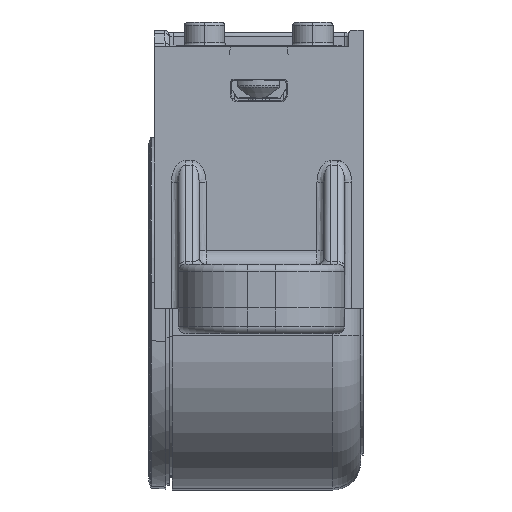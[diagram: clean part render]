
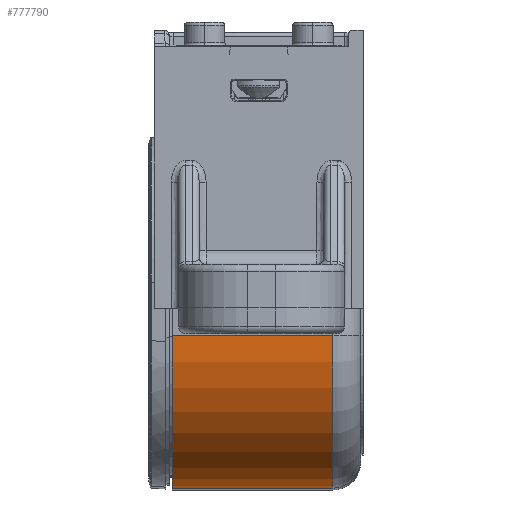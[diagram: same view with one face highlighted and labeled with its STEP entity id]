
A CAD part, top view. The second image highlights one B-rep face of the part: STEP entity #777790.
In plain terms, the highlighted cylindrical face has radius 11 mm (diameter 22 mm), a partial arc.
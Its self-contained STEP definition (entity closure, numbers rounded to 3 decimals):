
#724920=CARTESIAN_POINT('',(-124.1,-12.,132.18));
#724930=VERTEX_POINT('',#724920);
#725260=CARTESIAN_POINT('',(-135.1,-1.,
132.18));
#725270=VERTEX_POINT('',#725260);
#725380=CARTESIAN_POINT('',(-124.1,-1.,
132.18));
#725390=DIRECTION('',(0.,0.,1.));
#725400=DIRECTION('',(1.,0.,0.));
#725410=AXIS2_PLACEMENT_3D('',#725380,#725390,#725400);
#725420=CIRCLE('',#725410,11.);
#725430=EDGE_CURVE('',#725270,#724930,#725420,.T.);
#726240=CARTESIAN_POINT('',(-124.1,-12.,120.58));
#726250=VERTEX_POINT('',#726240);
#726280=CARTESIAN_POINT('',(-124.1,-12.,0.));
#726290=DIRECTION('',(0.,0.,1.));
#726300=VECTOR('',#726290,1.);
#726310=LINE('',#726280,#726300);
#726320=EDGE_CURVE('',#726250,#724930,#726310,.T.);
#777550=CARTESIAN_POINT('',(-124.1,-1.,0.));
#777560=DIRECTION('',(0.,0.,1.));
#777570=DIRECTION('',(1.,0.,0.));
#777580=AXIS2_PLACEMENT_3D('',#777550,#777560,#777570);
#777590=CYLINDRICAL_SURFACE('',#777580,11.);
#777600=ORIENTED_EDGE('',*,*,#726320,.T.);
#777610=CARTESIAN_POINT('',(-124.1,-1.,
120.58));
#777620=DIRECTION('',(0.,0.,1.));
#777630=DIRECTION('',(1.,0.,0.));
#777640=AXIS2_PLACEMENT_3D('',#777610,#777620,#777630);
#777650=CIRCLE('',#777640,11.);
#777660=CARTESIAN_POINT('',(-135.1,-1.,
120.58));
#777670=VERTEX_POINT('',#777660);
#777680=EDGE_CURVE('',#777670,#726250,#777650,.T.);
#777690=ORIENTED_EDGE('',*,*,#777680,.T.);
#777700=CARTESIAN_POINT('',(-135.1,-1.,0.));
#777710=DIRECTION('',(0.,0.,1.));
#777720=VECTOR('',#777710,1.);
#777730=LINE('',#777700,#777720);
#777740=EDGE_CURVE('',#777670,#725270,#777730,.T.);
#777750=ORIENTED_EDGE('',*,*,#777740,.F.);
#777760=ORIENTED_EDGE('',*,*,#725430,.F.);
#777770=EDGE_LOOP('',(#777760,#777750,#777690,#777600));
#777780=FACE_OUTER_BOUND('',#777770,.T.);
#777790=ADVANCED_FACE('',(#777780),#777590,.T.);
